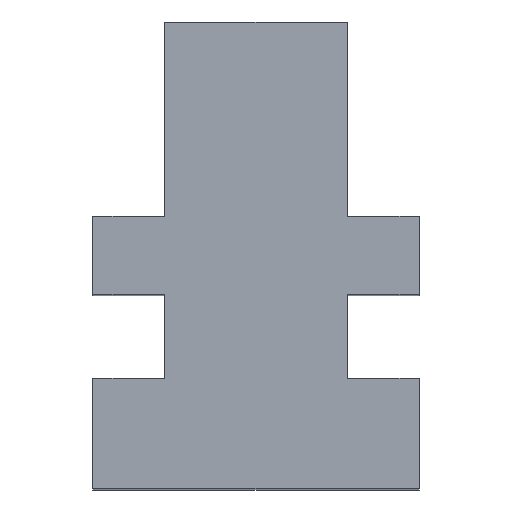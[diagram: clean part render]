
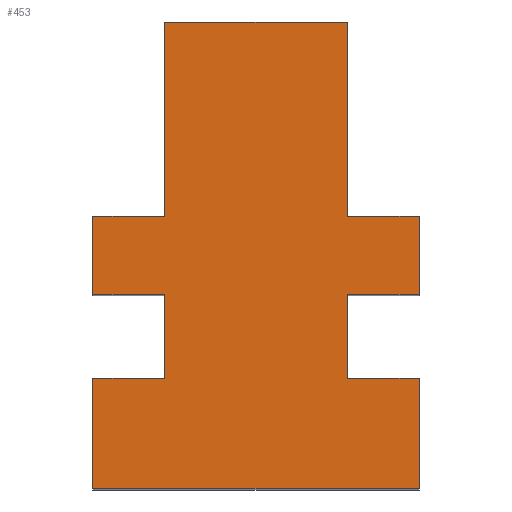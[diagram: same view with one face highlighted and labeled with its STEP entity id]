
A CAD part, top view. The second image highlights one B-rep face of the part: STEP entity #453.
In plain terms, the highlighted planar face has unit normal (0, 0, 1).
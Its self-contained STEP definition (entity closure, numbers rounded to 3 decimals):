
#2 = ORIENTED_EDGE ( 'NONE', *, *, #407, .T. ) ;
#8 = VECTOR ( 'NONE', #589, 1000. ) ;
#14 = LINE ( 'NONE', #31, #173 ) ;
#19 = VECTOR ( 'NONE', #571, 1000. ) ;
#28 = LINE ( 'NONE', #527, #386 ) ;
#29 = DIRECTION ( 'NONE',  ( 0., 1., 0. ) ) ;
#31 = CARTESIAN_POINT ( 'NONE',  ( 8.75, -6.6, 25.1 ) ) ;
#33 = DIRECTION ( 'NONE',  ( 0., -1., 0. ) ) ;
#35 = PLANE ( 'NONE',  #433 ) ;
#36 = CARTESIAN_POINT ( 'NONE',  ( -8.75, -6.6, 25.1 ) ) ;
#42 = VERTEX_POINT ( 'NONE', #235 ) ;
#43 = DIRECTION ( 'NONE',  ( 0., 1., 0. ) ) ;
#44 = LINE ( 'NONE', #415, #279 ) ;
#46 = CARTESIAN_POINT ( 'NONE',  ( -8.75, -6.6, 25.1 ) ) ;
#48 = LINE ( 'NONE', #190, #514 ) ;
#60 = VERTEX_POINT ( 'NONE', #196 ) ;
#62 = VERTEX_POINT ( 'NONE', #230 ) ;
#65 = CARTESIAN_POINT ( 'NONE',  ( 4.9, 6.6, 25.1 ) ) ;
#68 = CARTESIAN_POINT ( 'NONE',  ( -8.75, 2.1, 25.1 ) ) ;
#70 = DIRECTION ( 'NONE',  ( 0., 1., 0. ) ) ;
#79 = EDGE_CURVE ( 'NONE', #380, #573, #434, .T. ) ;
#80 = DIRECTION ( 'NONE',  ( 1., 0., 0. ) ) ;
#83 = DIRECTION ( 'NONE',  ( 0., 0., -1. ) ) ;
#85 = DIRECTION ( 'NONE',  ( 0., 1., 0. ) ) ;
#93 = DIRECTION ( 'NONE',  ( -1., 0., 0. ) ) ;
#94 = EDGE_CURVE ( 'NONE', #396, #590, #450, .T. ) ;
#97 = ORIENTED_EDGE ( 'NONE', *, *, #94, .F. ) ;
#102 = CARTESIAN_POINT ( 'NONE',  ( 4.9, -6.6, 25.1 ) ) ;
#118 = VERTEX_POINT ( 'NONE', #319 ) ;
#128 = DIRECTION ( 'NONE',  ( 1., 0., 0. ) ) ;
#129 = DIRECTION ( 'NONE',  ( -1., 0., 0. ) ) ;
#131 = CARTESIAN_POINT ( 'NONE',  ( -4.9, 2.1, 25.1 ) ) ;
#136 = VECTOR ( 'NONE', #576, 1000. ) ;
#143 = LINE ( 'NONE', #193, #267 ) ;
#149 = VERTEX_POINT ( 'NONE', #348 ) ;
#152 = LINE ( 'NONE', #36, #8 ) ;
#153 = ORIENTED_EDGE ( 'NONE', *, *, #465, .F. ) ;
#155 = DIRECTION ( 'NONE',  ( 0., -1., 0. ) ) ;
#156 = VECTOR ( 'NONE', #128, 1000. ) ;
#166 = VERTEX_POINT ( 'NONE', #68 ) ;
#167 = ORIENTED_EDGE ( 'NONE', *, *, #479, .F. ) ;
#173 = VECTOR ( 'NONE', #80, 1000. ) ;
#186 = EDGE_CURVE ( 'NONE', #166, #480, #44, .T. ) ;
#189 = ORIENTED_EDGE ( 'NONE', *, *, #194, .F. ) ;
#190 = CARTESIAN_POINT ( 'NONE',  ( -8.75, -12.5, 25.1 ) ) ;
#193 = CARTESIAN_POINT ( 'NONE',  ( -8.75, 12.5, 25.1 ) ) ;
#194 = EDGE_CURVE ( 'NONE', #344, #396, #152, .T. ) ;
#196 = CARTESIAN_POINT ( 'NONE',  ( 4.9, 12.5, 25.1 ) ) ;
#210 = ORIENTED_EDGE ( 'NONE', *, *, #268, .T. ) ;
#215 = EDGE_CURVE ( 'NONE', #590, #62, #596, .T. ) ;
#229 = VECTOR ( 'NONE', #155, 1000. ) ;
#230 = CARTESIAN_POINT ( 'NONE',  ( -8.75, -2.1, 25.1 ) ) ;
#233 = VERTEX_POINT ( 'NONE', #452 ) ;
#235 = CARTESIAN_POINT ( 'NONE',  ( -8.75, -12.5, 25.1 ) ) ;
#238 = VERTEX_POINT ( 'NONE', #489 ) ;
#243 = EDGE_CURVE ( 'NONE', #166, #62, #48, .T. ) ;
#246 = LINE ( 'NONE', #512, #359 ) ;
#259 = CARTESIAN_POINT ( 'NONE',  ( -8.75, -2.1, 25.1 ) ) ;
#267 = VECTOR ( 'NONE', #93, 1000. ) ;
#268 = EDGE_CURVE ( 'NONE', #60, #328, #143, .T. ) ;
#276 = ORIENTED_EDGE ( 'NONE', *, *, #283, .F. ) ;
#279 = VECTOR ( 'NONE', #365, 1000. ) ;
#283 = EDGE_CURVE ( 'NONE', #233, #573, #14, .T. ) ;
#294 = VERTEX_POINT ( 'NONE', #548 ) ;
#296 = CARTESIAN_POINT ( 'NONE',  ( -4.9, -6.6, 25.1 ) ) ;
#318 = EDGE_CURVE ( 'NONE', #118, #149, #246, .T. ) ;
#319 = CARTESIAN_POINT ( 'NONE',  ( 8.75, -2.1, 25.1 ) ) ;
#324 = CARTESIAN_POINT ( 'NONE',  ( 0., 0., 25.1 ) ) ;
#328 = VERTEX_POINT ( 'NONE', #370 ) ;
#329 = VECTOR ( 'NONE', #29, 1000. ) ;
#343 = CARTESIAN_POINT ( 'NONE',  ( 8.75, -6.6, 25.1 ) ) ;
#344 = VERTEX_POINT ( 'NONE', #46 ) ;
#345 = ORIENTED_EDGE ( 'NONE', *, *, #541, .F. ) ;
#347 = DIRECTION ( 'NONE',  ( 0., -1., 0. ) ) ;
#348 = CARTESIAN_POINT ( 'NONE',  ( 8.75, 2.1, 25.1 ) ) ;
#353 = ORIENTED_EDGE ( 'NONE', *, *, #186, .F. ) ;
#359 = VECTOR ( 'NONE', #43, 1000. ) ;
#360 = VECTOR ( 'NONE', #85, 1000. ) ;
#365 = DIRECTION ( 'NONE',  ( 1., 0., 0. ) ) ;
#369 = VECTOR ( 'NONE', #347, 1000. ) ;
#370 = CARTESIAN_POINT ( 'NONE',  ( -4.9, 12.5, 25.1 ) ) ;
#378 = LINE ( 'NONE', #458, #476 ) ;
#379 = EDGE_CURVE ( 'NONE', #294, #233, #492, .T. ) ;
#380 = VERTEX_POINT ( 'NONE', #439 ) ;
#386 = VECTOR ( 'NONE', #33, 1000. ) ;
#390 = ORIENTED_EDGE ( 'NONE', *, *, #432, .T. ) ;
#392 = CARTESIAN_POINT ( 'NONE',  ( -4.9, -2.1, 25.1 ) ) ;
#396 = VERTEX_POINT ( 'NONE', #296 ) ;
#399 = CARTESIAN_POINT ( 'NONE',  ( 8.75, -12.5, 25.1 ) ) ;
#405 = LINE ( 'NONE', #410, #156 ) ;
#407 = EDGE_CURVE ( 'NONE', #344, #42, #28, .T. ) ;
#410 = CARTESIAN_POINT ( 'NONE',  ( -8.75, -12.5, 25.1 ) ) ;
#414 = DIRECTION ( 'NONE',  ( -1., 0., 0. ) ) ;
#415 = CARTESIAN_POINT ( 'NONE',  ( -8.75, 2.1, 25.1 ) ) ;
#417 = CARTESIAN_POINT ( 'NONE',  ( -4.9, 6.6, 25.1 ) ) ;
#419 = LINE ( 'NONE', #444, #19 ) ;
#426 = ORIENTED_EDGE ( 'NONE', *, *, #594, .F. ) ;
#431 = ORIENTED_EDGE ( 'NONE', *, *, #318, .T. ) ;
#432 = EDGE_CURVE ( 'NONE', #42, #380, #405, .T. ) ;
#433 = AXIS2_PLACEMENT_3D ( 'NONE', #324, #83, #414 ) ;
#434 = LINE ( 'NONE', #399, #554 ) ;
#439 = CARTESIAN_POINT ( 'NONE',  ( 8.75, -12.5, 25.1 ) ) ;
#444 = CARTESIAN_POINT ( 'NONE',  ( 8.75, 2.1, 25.1 ) ) ;
#447 = ORIENTED_EDGE ( 'NONE', *, *, #79, .T. ) ;
#450 = LINE ( 'NONE', #580, #329 ) ;
#452 = CARTESIAN_POINT ( 'NONE',  ( 4.9, -6.6, 25.1 ) ) ;
#453 = ADVANCED_FACE ( 'NONE', ( #511 ), #35, .F. ) ;
#458 = CARTESIAN_POINT ( 'NONE',  ( 8.75, -2.1, 25.1 ) ) ;
#465 = EDGE_CURVE ( 'NONE', #118, #294, #378, .T. ) ;
#476 = VECTOR ( 'NONE', #129, 1000. ) ;
#477 = ORIENTED_EDGE ( 'NONE', *, *, #215, .F. ) ;
#479 = EDGE_CURVE ( 'NONE', #480, #328, #598, .T. ) ;
#480 = VERTEX_POINT ( 'NONE', #131 ) ;
#485 = LINE ( 'NONE', #65, #369 ) ;
#489 = CARTESIAN_POINT ( 'NONE',  ( 4.9, 2.1, 25.1 ) ) ;
#492 = LINE ( 'NONE', #102, #229 ) ;
#511 = FACE_OUTER_BOUND ( 'NONE', #561, .T. ) ;
#512 = CARTESIAN_POINT ( 'NONE',  ( 8.75, -12.5, 25.1 ) ) ;
#514 = VECTOR ( 'NONE', #595, 1000. ) ;
#525 = ORIENTED_EDGE ( 'NONE', *, *, #243, .T. ) ;
#527 = CARTESIAN_POINT ( 'NONE',  ( -8.75, -12.5, 25.1 ) ) ;
#541 = EDGE_CURVE ( 'NONE', #238, #149, #419, .T. ) ;
#548 = CARTESIAN_POINT ( 'NONE',  ( 4.9, -2.1, 25.1 ) ) ;
#554 = VECTOR ( 'NONE', #70, 1000. ) ;
#561 = EDGE_LOOP ( 'NONE', ( #210, #167, #353, #525, #477, #97, #189, #2, #390, #447, #276, #579, #153, #431, #345, #426 ) ) ;
#571 = DIRECTION ( 'NONE',  ( 1., 0., 0. ) ) ;
#573 = VERTEX_POINT ( 'NONE', #343 ) ;
#576 = DIRECTION ( 'NONE',  ( -1., 0., 0. ) ) ;
#579 = ORIENTED_EDGE ( 'NONE', *, *, #379, .F. ) ;
#580 = CARTESIAN_POINT ( 'NONE',  ( -4.9, -6.6, 25.1 ) ) ;
#589 = DIRECTION ( 'NONE',  ( 1., 0., 0. ) ) ;
#590 = VERTEX_POINT ( 'NONE', #392 ) ;
#594 = EDGE_CURVE ( 'NONE', #60, #238, #485, .T. ) ;
#595 = DIRECTION ( 'NONE',  ( 0., -1., 0. ) ) ;
#596 = LINE ( 'NONE', #259, #136 ) ;
#598 = LINE ( 'NONE', #417, #360 ) ;
